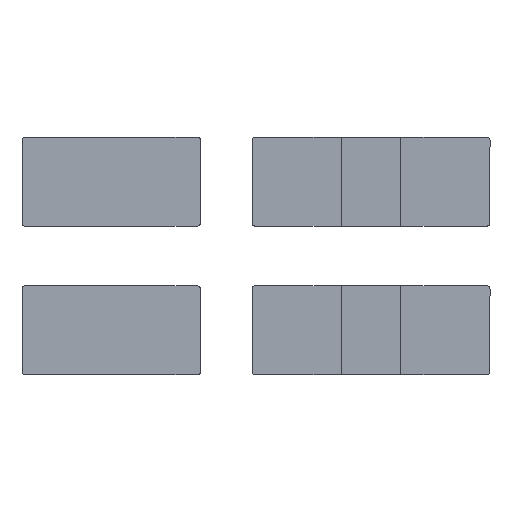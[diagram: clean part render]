
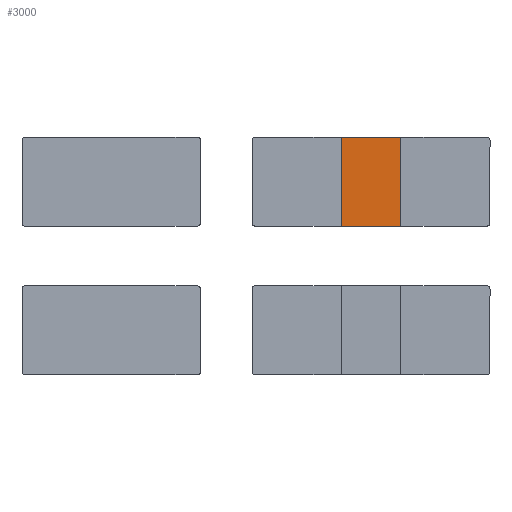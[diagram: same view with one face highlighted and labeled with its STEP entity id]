
A CAD part, top view. The second image highlights one B-rep face of the part: STEP entity #3000.
In plain terms, the highlighted free-form (B-spline) face has degree [1, 1] with [2, 2] control points.
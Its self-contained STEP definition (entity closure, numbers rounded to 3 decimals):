
#3000=ADVANCED_FACE('',(#3696),#24362,.T.);
#3696=FACE_OUTER_BOUND('',#4392,.T.);
#4392=EDGE_LOOP('',(#5646,#5647,#5648,#5649));
#5646=ORIENTED_EDGE('',*,*,#20798,.T.);
#5647=ORIENTED_EDGE('',*,*,#20799,.T.);
#5648=ORIENTED_EDGE('',*,*,#20800,.T.);
#5649=ORIENTED_EDGE('',*,*,#20801,.T.);
#9221=B_SPLINE_CURVE_WITH_KNOTS('',1,(#33904,#33905),.UNSPECIFIED.,.F.,
 .F.,(2,2),(0.,900.),.UNSPECIFIED.);
#9222=B_SPLINE_CURVE_WITH_KNOTS('',1,(#33906,#33907),.UNSPECIFIED.,.F.,
 .F.,(2,2),(0.,900.),.UNSPECIFIED.);
#9223=B_SPLINE_CURVE_WITH_KNOTS('',1,(#33908,#33909),.UNSPECIFIED.,.F.,
 .F.,(2,2),(0.,600.),.UNSPECIFIED.);
#9224=B_SPLINE_CURVE_WITH_KNOTS('',1,(#33910,#33911),.UNSPECIFIED.,.F.,
 .F.,(2,2),(0.,600.),.UNSPECIFIED.);
#9225=B_SPLINE_CURVE_WITH_KNOTS('',1,(#33912,#33913),.UNSPECIFIED.,.F.,
 .F.,(2,2),(0.,900.),.UNSPECIFIED.);
#9226=B_SPLINE_CURVE_WITH_KNOTS('',1,(#33914,#33915),.UNSPECIFIED.,.F.,
 .F.,(2,2),(0.,900.),.UNSPECIFIED.);
#9227=B_SPLINE_CURVE_WITH_KNOTS('',1,(#33916,#33917),.UNSPECIFIED.,.F.,
 .F.,(2,2),(0.,600.),.UNSPECIFIED.);
#9228=B_SPLINE_CURVE_WITH_KNOTS('',1,(#33918,#33919),.UNSPECIFIED.,.F.,
 .F.,(2,2),(0.,600.),.UNSPECIFIED.);
#9240=B_SPLINE_CURVE_WITH_KNOTS('',1,(#33942,#33943),.UNSPECIFIED.,.F.,
 .F.,(2,2),(0.,900.),.UNSPECIFIED.);
#9246=B_SPLINE_CURVE_WITH_KNOTS('',1,(#33954,#33955),.UNSPECIFIED.,.F.,
 .F.,(2,2),(0.,600.),.UNSPECIFIED.);
#9251=B_SPLINE_CURVE_WITH_KNOTS('',1,(#33964,#33965),.UNSPECIFIED.,.F.,
 .F.,(2,2),(0.,900.),.UNSPECIFIED.);
#9255=B_SPLINE_CURVE_WITH_KNOTS('',1,(#33972,#33973),.UNSPECIFIED.,.F.,
 .F.,(2,2),(0.,600.),.UNSPECIFIED.);
#13032=PCURVE('',#24362,#16280);
#13033=PCURVE('',#24362,#16281);
#13034=PCURVE('',#24362,#16282);
#13035=PCURVE('',#24362,#16283);
#13042=PCURVE('',#24364,#16290);
#13046=PCURVE('',#24365,#16294);
#13050=PCURVE('',#24366,#16298);
#13054=PCURVE('',#24367,#16302);
#16280=DEFINITIONAL_REPRESENTATION('',(#9222),#51179);
#16281=DEFINITIONAL_REPRESENTATION('',(#9224),#51179);
#16282=DEFINITIONAL_REPRESENTATION('',(#9226),#51179);
#16283=DEFINITIONAL_REPRESENTATION('',(#9228),#51179);
#16290=DEFINITIONAL_REPRESENTATION('',(#9240),#51179);
#16294=DEFINITIONAL_REPRESENTATION('',(#9246),#51179);
#16298=DEFINITIONAL_REPRESENTATION('',(#9251),#51179);
#16302=DEFINITIONAL_REPRESENTATION('',(#9255),#51179);
#19174=SURFACE_CURVE('',#9221,(#13032,#13042),.PCURVE_S1.);
#19175=SURFACE_CURVE('',#9223,(#13033,#13046),.PCURVE_S1.);
#19176=SURFACE_CURVE('',#9225,(#13034,#13050),.PCURVE_S1.);
#19177=SURFACE_CURVE('',#9227,(#13035,#13054),.PCURVE_S1.);
#20798=EDGE_CURVE('',#23200,#23201,#19174,.T.);
#20799=EDGE_CURVE('',#23201,#23202,#19175,.T.);
#20800=EDGE_CURVE('',#23202,#23203,#19176,.T.);
#20801=EDGE_CURVE('',#23203,#23200,#19177,.T.);
#23200=VERTEX_POINT('',#33896);
#23201=VERTEX_POINT('',#33897);
#23202=VERTEX_POINT('',#33898);
#23203=VERTEX_POINT('',#33899);
#24362=B_SPLINE_SURFACE_WITH_KNOTS('',1,1,((#33872,#33873),(#33874,#33875)),
 .UNSPECIFIED.,.F.,.F.,.F.,(2,2),(2,2),(60.12,660.12),(90.12,
990.12),.UNSPECIFIED.);
#24364=B_SPLINE_SURFACE_WITH_KNOTS('',1,1,((#33880,#33881),(#33882,#33883)),
 .UNSPECIFIED.,.F.,.F.,.F.,(2,2),(2,2),(2.,23.),
(90.,990.),.UNSPECIFIED.);
#24365=B_SPLINE_SURFACE_WITH_KNOTS('',1,1,((#33884,#33885),(#33886,#33887)),
 .UNSPECIFIED.,.F.,.F.,.F.,(2,2),(2,2),(2.,23.),
(60.,660.),.UNSPECIFIED.);
#24366=B_SPLINE_SURFACE_WITH_KNOTS('',1,1,((#33888,#33889),(#33890,#33891)),
 .UNSPECIFIED.,.F.,.F.,.F.,(2,2),(2,2),(2.,23.),
(90.,990.),.UNSPECIFIED.);
#24367=B_SPLINE_SURFACE_WITH_KNOTS('',1,1,((#33892,#33893),(#33894,#33895)),
 .UNSPECIFIED.,.F.,.F.,.F.,(2,2),(2,2),(2.,23.),
(60.,660.),.UNSPECIFIED.);
#33872=CARTESIAN_POINT('',(-843.629,-7761.858,730.034));
#33873=CARTESIAN_POINT('',(-843.629,-6861.858,730.034));
#33874=CARTESIAN_POINT('',(-243.629,-7761.858,730.034));
#33875=CARTESIAN_POINT('',(-243.629,-6861.858,730.034));
#33880=CARTESIAN_POINT('',(-843.629,-7761.858,709.034));
#33881=CARTESIAN_POINT('',(-843.629,-6861.858,709.034));
#33882=CARTESIAN_POINT('',(-843.629,-7761.858,730.034));
#33883=CARTESIAN_POINT('',(-843.629,-6861.858,730.034));
#33884=CARTESIAN_POINT('',(-243.629,-7761.858,709.034));
#33885=CARTESIAN_POINT('',(-843.629,-7761.858,709.034));
#33886=CARTESIAN_POINT('',(-243.629,-7761.858,730.034));
#33887=CARTESIAN_POINT('',(-843.629,-7761.858,730.034));
#33888=CARTESIAN_POINT('',(-243.629,-6861.858,709.034));
#33889=CARTESIAN_POINT('',(-243.629,-7761.858,709.034));
#33890=CARTESIAN_POINT('',(-243.629,-6861.858,730.034));
#33891=CARTESIAN_POINT('',(-243.629,-7761.858,730.034));
#33892=CARTESIAN_POINT('',(-843.629,-6861.858,709.034));
#33893=CARTESIAN_POINT('',(-243.629,-6861.858,709.034));
#33894=CARTESIAN_POINT('',(-843.629,-6861.858,730.034));
#33895=CARTESIAN_POINT('',(-243.629,-6861.858,730.034));
#33896=CARTESIAN_POINT('',(-843.629,-6861.858,730.034));
#33897=CARTESIAN_POINT('',(-843.629,-7761.858,730.034));
#33898=CARTESIAN_POINT('',(-243.629,-7761.858,730.034));
#33899=CARTESIAN_POINT('',(-243.629,-6861.858,730.034));
#33904=CARTESIAN_POINT('',(-843.629,-6861.858,730.034));
#33905=CARTESIAN_POINT('',(-843.629,-7761.858,730.034));
#33906=CARTESIAN_POINT('',(60.12,990.12));
#33907=CARTESIAN_POINT('',(60.12,90.12));
#33908=CARTESIAN_POINT('',(-843.629,-7761.858,730.034));
#33909=CARTESIAN_POINT('',(-243.629,-7761.858,730.034));
#33910=CARTESIAN_POINT('',(60.12,90.12));
#33911=CARTESIAN_POINT('',(660.12,90.12));
#33912=CARTESIAN_POINT('',(-243.629,-7761.858,730.034));
#33913=CARTESIAN_POINT('',(-243.629,-6861.858,730.034));
#33914=CARTESIAN_POINT('',(660.12,90.12));
#33915=CARTESIAN_POINT('',(660.12,990.12));
#33916=CARTESIAN_POINT('',(-243.629,-6861.858,730.034));
#33917=CARTESIAN_POINT('',(-843.629,-6861.858,730.034));
#33918=CARTESIAN_POINT('',(660.12,990.12));
#33919=CARTESIAN_POINT('',(60.12,990.12));
#33942=CARTESIAN_POINT('',(23.,990.));
#33943=CARTESIAN_POINT('',(23.,90.));
#33954=CARTESIAN_POINT('',(23.,660.));
#33955=CARTESIAN_POINT('',(23.,60.));
#33964=CARTESIAN_POINT('',(23.,990.));
#33965=CARTESIAN_POINT('',(23.,90.));
#33972=CARTESIAN_POINT('',(23.,660.));
#33973=CARTESIAN_POINT('',(23.,60.));
#51179=(
GEOMETRIC_REPRESENTATION_CONTEXT(2)
PARAMETRIC_REPRESENTATION_CONTEXT()
REPRESENTATION_CONTEXT('pspace','')
);
